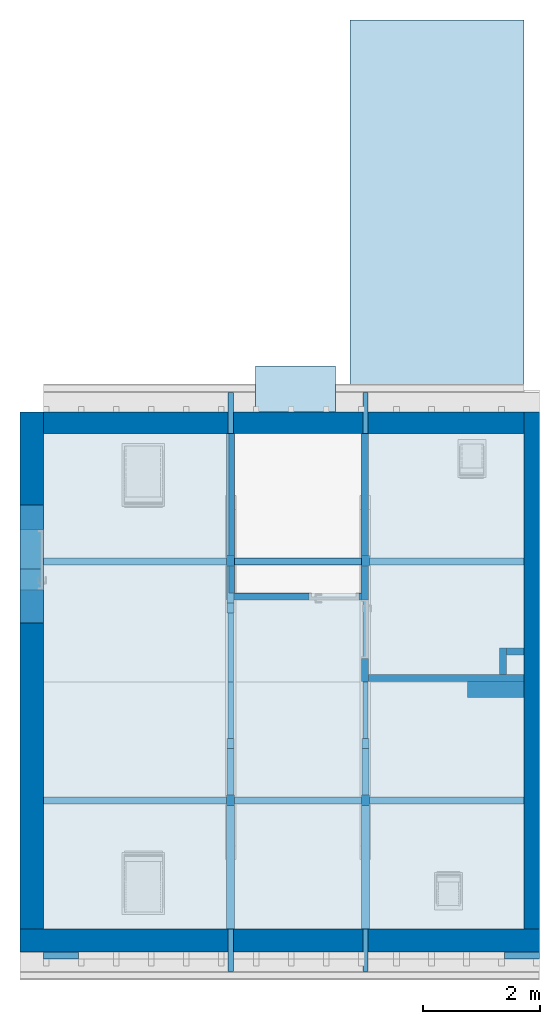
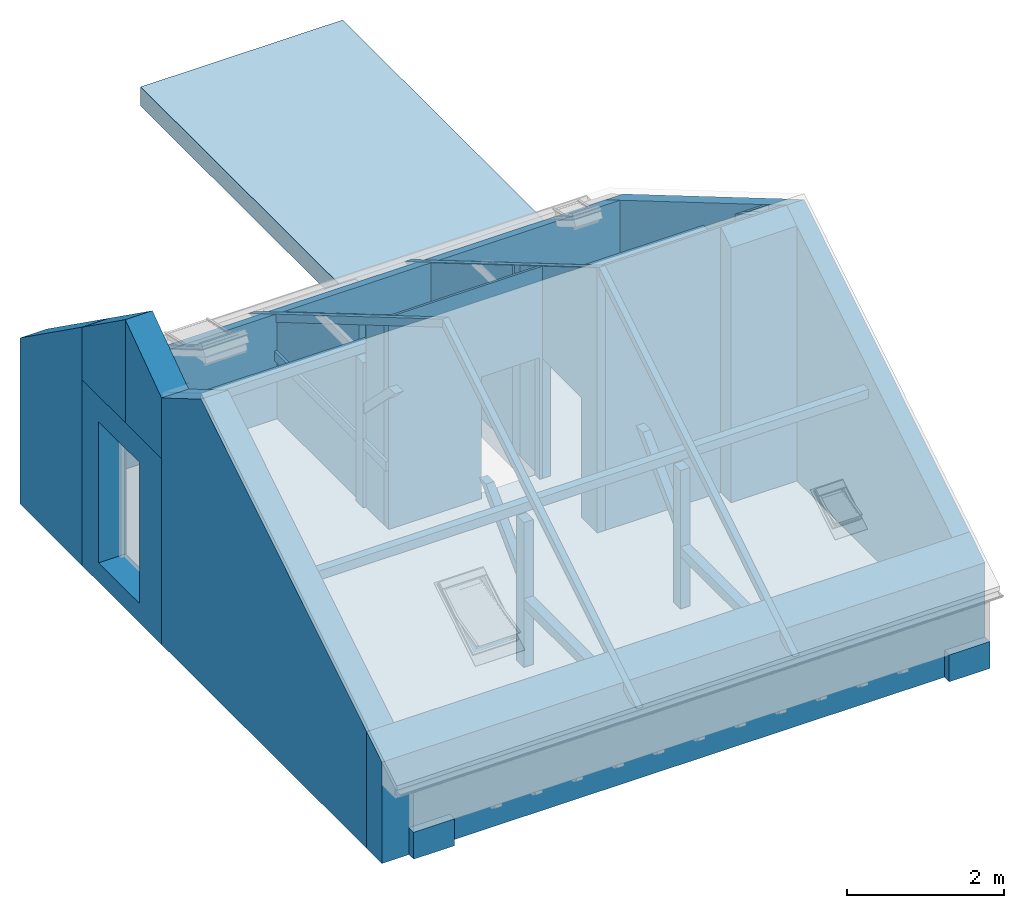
"""IFC4 building model written with IfcOpenShell, lengths in metres."""

from ifc_helpers import new_model, entity, si_unit, converted_unit, derived_unit, frame, frame_2d, origin, origin_with_axes, place, context, subcontext, project, spatial, polyline, rectangle, outline, extrude, clip, halfspace, bounded_halfspace, faceted_brep, material, layer, layer_set, layer_usage, element, save


model = new_model("IFC4")

# Units and contexts
model_context = context("Model", 3, precision=1e-05, world=origin())
body_context = subcontext(model_context, "Body", "Model", "MODEL_VIEW")
ifc_project = project(units=[si_unit("LENGTHUNIT", "METRE"), si_unit("AREAUNIT", "SQUARE_METRE"), si_unit("VOLUMEUNIT", "CUBIC_METRE"), si_unit("MASSUNIT", "GRAM", prefix="KILO"), converted_unit("PLANEANGLEUNIT", "DEGREE", entity("IfcPlaneAngleMeasure", 0.0174532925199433), si_unit("PLANEANGLEUNIT", "RADIAN"), dimensions=[0, 0, 0, 0, 0, 0, 0]), derived_unit("THERMALTRANSMITTANCEUNIT", [(si_unit("POWERUNIT", "WATT"), 1), (si_unit("THERMODYNAMICTEMPERATUREUNIT", "KELVIN"), -1), (si_unit("LENGTHUNIT", "METRE"), -2)]), derived_unit("VOLUMETRICFLOWRATEUNIT", [(si_unit("LENGTHUNIT", "METRE"), 3), (converted_unit("TIMEUNIT", "hour", entity("IfcTimeMeasure", 3600.0), si_unit("TIMEUNIT", "SECOND"), dimensions=[0, 0, 1, 0, 0, 0, 0]), -1), (si_unit("LENGTHUNIT", "METRE"), -1)])], contexts=[model_context])

# Building, storeys
building_placement = place(None, origin())
building = spatial("IfcBuilding", under=ifc_project, at=building_placement, Name="Bestandsgebäude A - Sporthalle / Wohnhaus (TB 100-499)   ANPASSEN !!!", CompositionType="ELEMENT")
storey_1_placement = place(building_placement, frame((0.0, 0.0, 7.71)))
storey_1 = spatial("IfcBuildingStorey", under=building, at=storey_1_placement, Name="Geb. A Dachgeschoss (TB 450-499)", CompositionType="ELEMENT", Elevation=7.71)
storey_2_placement = place(storey_1_placement, frame((0.0, 0.0, 7.71)))
storey_2 = spatial("IfcBuildingStorey", under=storey_1, at=storey_2_placement, Name="Architektur (TB 450-459)", CompositionType="PARTIAL")

# Columns
column_1_placement = place(storey_2_placement, frame((-5.36, 2.50597002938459, -7.81)))
element("IfcColumn", 1, at=column_1_placement, inside=storey_2, PredefinedType="COLUMN", context=body_context, shape_type="SweptSolid", body=[
    extrude(rectangle(XDim=0.14, YDim=0.18, at=frame_2d((0.07, 0.09), x_axis=(1.0, 0.0))), origin_with_axes(), (0.0, 0.0, 1.0), 2.26),
])
column_2_placement = place(storey_2_placement, frame((-3.04999999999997, 2.50597002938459, -7.71)))
element("IfcColumn", 2, at=column_2_placement, inside=storey_2, PredefinedType="COLUMN", context=body_context, shape_type="SweptSolid", body=[
    extrude(rectangle(XDim=0.14, YDim=0.18, at=frame_2d((0.07, 0.09), x_axis=(1.0, 0.0))), origin_with_axes(), (0.0, 0.0, 1.0), 2.16),
])
for number, where in (
    (3, (-5.36, 6.61, -7.81)),
    (4, (-3.04999999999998, 6.60999999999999, -7.81)),
):
    element("IfcColumn", number, at=place(storey_2_placement, frame(where)), inside=storey_2, PredefinedType="COLUMN", context=body_context, shape_type="SweptSolid", body=[
        extrude(rectangle(XDim=0.14, YDim=0.18, at=frame_2d((0.07, 0.09), x_axis=(1.0, 0.0))), origin_with_axes(), (0.0, 0.0, 1.0), 2.26),
    ])

# Beams
beam_1_placement = place(storey_2_placement, frame((-5.35, 2.68626440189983, -6.51970562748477)))
element("IfcBeam", 5, at=beam_1_placement, inside=storey_2, PredefinedType="BEAM", context=body_context, shape_type="Brep", body=[
    faceted_brep([(0.0, 0.0, 0.169705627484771), (0.0, 0.8, 0.969705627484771), (0.12, 0.8, 0.969705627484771), (0.12, 0.0, 0.169705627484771), (0.0, 0.0, 0.0), (0.12, 0.0, 0.0), (0.12, 0.969705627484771, 0.969705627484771), (0.0, 0.969705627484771, 0.969705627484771)], [[[0, 1, 2, 3]], [[4, 5, 6, 7]], [[4, 7, 1, 0]], [[7, 6, 2, 1]], [[6, 5, 3, 2]], [[5, 4, 0, 3]]], orient=[[False], [False], [False], [False], [False], [False]]),
])
beam_2_placement = place(storey_2_placement, frame((-5.35, 5.81, -6.51970562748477)))
element("IfcBeam", 6, at=beam_2_placement, inside=storey_2, PredefinedType="BEAM", context=body_context, shape_type="Brep", body=[
    faceted_brep([(0.12, 0.969705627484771, 0.169705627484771), (0.12, 0.169705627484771, 0.969705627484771), (0.0, 0.169705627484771, 0.969705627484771), (0.0, 0.969705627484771, 0.169705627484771), (0.12, 0.969705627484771, 0.0), (0.0, 0.969705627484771, 0.0), (0.0, 0.0, 0.969705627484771), (0.12, 0.0, 0.969705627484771)], [[[0, 1, 2, 3]], [[4, 5, 6, 7]], [[4, 7, 1, 0]], [[7, 6, 2, 1]], [[6, 5, 3, 2]], [[5, 4, 0, 3]]], orient=[[False], [False], [False], [False], [False], [False]]),
])
beam_3_placement = place(storey_2_placement, frame((-3.03999999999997, 2.68626440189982, -6.51970562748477)))
element("IfcBeam", 7, at=beam_3_placement, inside=storey_2, PredefinedType="BEAM", context=body_context, shape_type="Brep", body=[
    faceted_brep([(0.0, 0.0, 0.169705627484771), (0.0, 0.8, 0.969705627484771), (0.12, 0.8, 0.969705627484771), (0.12, 0.0, 0.169705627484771), (0.0, 0.0, 0.0), (0.12, 0.0, 0.0), (0.12, 0.969705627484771, 0.969705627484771), (0.0, 0.969705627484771, 0.969705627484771)], [[[0, 1, 2, 3]], [[4, 5, 6, 7]], [[4, 7, 1, 0]], [[7, 6, 2, 1]], [[6, 5, 3, 2]], [[5, 4, 0, 3]]], orient=[[False], [False], [False], [False], [False], [False]]),
])
beam_4_placement = place(storey_2_placement, frame((-5.335, 4.62499999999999, -6.59000000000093)))
element("IfcBeam", 8, at=beam_4_placement, inside=storey_2, PredefinedType="BEAM", context=body_context, shape_type="Brep", body=[
    faceted_brep([(0.0, 0.0, 2.92000000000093), (0.09, 0.0, 2.92000000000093), (0.09, 0.0, 2.79238669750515), (0.0, 0.0, 2.79238669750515), (0.0, 4.96500584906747, 0.0), (0.09, 4.96500584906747, 0.0), (0.09, 4.74801927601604, 0.0), (0.0, 4.74801927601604, 0.0)], [[[0, 1, 2, 3]], [[0, 4, 5, 1]], [[1, 5, 6, 2]], [[2, 6, 7, 3]], [[3, 7, 4, 0]], [[4, 7, 6, 5]]], orient=[[False], [False], [False], [False], [False], [False]]),
])
for number, where in (
    (9, (-5.335, -0.340000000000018, -6.74)),
    (10, (-3.02499999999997, -0.340000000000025, -6.74)),
):
    element("IfcBeam", number, at=place(storey_2_placement, frame(where)), inside=storey_2, PredefinedType="BEAM", context=body_context, shape_type="Brep", body=[
        faceted_brep([(0.09, 4.96500000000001, 3.07), (0.0, 4.96500000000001, 3.07), (0.0, 4.96500000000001, 2.94067022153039), (0.09, 4.96500000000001, 2.94067022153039), (0.09, 0.0, 0.0), (0.0, 0.0, 0.0), (0.0, 0.209160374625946, 0.0), (0.09, 0.209160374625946, 0.0)], [[[0, 1, 2, 3]], [[0, 4, 5, 1]], [[1, 5, 6, 2]], [[2, 6, 7, 3]], [[3, 7, 4, 0]], [[4, 7, 6, 5]]], orient=[[False], [False], [False], [False], [False], [False]]),
    ])
beam_5_placement = place(storey_2_placement, frame((-3.02499999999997, 4.62499999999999, -6.59000000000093)))
element("IfcBeam", 11, at=beam_5_placement, inside=storey_2, PredefinedType="BEAM", context=body_context, shape_type="Brep", body=[
    faceted_brep([(0.0, 0.0, 2.92000000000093), (0.09, 0.0, 2.92000000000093), (0.09, 0.0, 2.79238669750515), (0.0, 0.0, 2.79238669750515), (0.0, 4.96500584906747, 0.0), (0.09, 4.96500584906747, 0.0), (0.09, 4.74801927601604, 0.0), (0.0, 4.74801927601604, 0.0)], [[[0, 1, 2, 3]], [[0, 4, 5, 1]], [[1, 5, 6, 2]], [[2, 6, 7, 3]], [[3, 7, 4, 0]], [[4, 7, 6, 5]]], orient=[[False], [False], [False], [False], [False], [False]]),
])
beam_6_placement = place(storey_2_placement, frame((-2.90999999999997, 0.389999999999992, -6.89), z_axis=(0.0, 0.0, 1.0), x_axis=(0.0, 1.0, 0.0)))
element("IfcBeam", 12, at=beam_6_placement, inside=storey_2, PredefinedType="NOTDEFINED", context=body_context, shape_type="SweptSolid", body=[
    extrude(rectangle(XDim=0.14, YDim=0.15, at=frame_2d((0.07, 0.075), x_axis=(1.0, 0.0))), frame((0.0, 0.0, 0.0), z_axis=(1.0, 0.0, 0.0), x_axis=(0.0, 1.0, 0.0)), (0.0, 0.0, 1.0), 2.11597002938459),
])
beam_7_placement = place(storey_2_placement, frame((-0.260000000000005, 2.65, -5.41), z_axis=(0.0, 0.0, 1.0), x_axis=(-1.0, 0.0, 0.0)))
element("IfcBeam", 13, at=beam_7_placement, inside=storey_2, PredefinedType="NOTDEFINED", context=body_context, shape_type="SweptSolid", body=[
    extrude(rectangle(XDim=0.12, YDim=0.14, at=frame_2d((0.06, 0.07), x_axis=(1.0, 0.0))), frame((0.0, 0.0, 0.0), z_axis=(1.0, 0.0, 0.0), x_axis=(0.0, 1.0, 0.0)), (0.0, 0.0, 1.0), 8.23999999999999),
])
beam_8_placement = place(storey_2_placement, frame((-5.22, 0.389999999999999, -6.89), z_axis=(0.0, 0.0, 1.0), x_axis=(0.0, 1.0, 0.0)))
element("IfcBeam", 14, at=beam_8_placement, inside=storey_2, PredefinedType="NOTDEFINED", context=body_context, shape_type="SweptSolid", body=[
    extrude(rectangle(XDim=0.14, YDim=0.15, at=frame_2d((0.07, 0.075), x_axis=(1.0, 0.0))), frame((0.0, 0.0, 0.0), z_axis=(1.0, 0.0, 0.0), x_axis=(0.0, 1.0, 0.0)), (0.0, 0.0, 1.0), 2.11597002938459),
])
beam_9_placement = place(storey_2_placement, frame((-0.260000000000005, 6.75000000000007, -5.41), z_axis=(0.0, 0.0, 1.0), x_axis=(-1.0, -1.37969463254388e-14, 0.0)))
element("IfcBeam", 15, at=beam_9_placement, inside=storey_2, PredefinedType="NOTDEFINED", context=body_context, shape_type="SweptSolid", body=[
    extrude(rectangle(XDim=0.12, YDim=0.14, at=frame_2d((0.06, 0.07), x_axis=(1.0, 0.0))), frame((0.0, 0.0, 0.0), z_axis=(1.0, 0.0, 0.0), x_axis=(0.0, 1.0, 0.0)), (0.0, 0.0, 1.0), 8.23999999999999),
])
beam_10_placement = place(storey_2_placement, frame((-5.22, 6.03, -6.89), z_axis=(0.0, 0.0, 1.0), x_axis=(2.2338466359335e-15, 1.0, 0.0)))
element("IfcBeam", 16, at=beam_10_placement, inside=storey_2, PredefinedType="NOTDEFINED", context=body_context, shape_type="SweptSolid", body=[
    extrude(rectangle(XDim=0.14, YDim=0.15, at=frame_2d((0.07, 0.075), x_axis=(1.0, 0.0))), frame((0.0, 0.0, 0.0), z_axis=(1.0, 0.0, 0.0), x_axis=(0.0, 1.0, 0.0)), (0.0, 0.0, 1.0), 2.85000000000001),
])

# Slabs
slab_1_placement = place(storey_2_placement, frame((-4.86, 9.25, -7.07)))
element("IfcSlab", 17, at=slab_1_placement, inside=storey_2, PredefinedType="FLOOR", context=body_context, shape_type="SweptSolid", body=[
    extrude(rectangle(XDim=0.79, YDim=1.36999999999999, at=frame_2d((0.684999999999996, -0.395), x_axis=(0.0, -1.0))), frame((0.0, 0.79, 0.0), z_axis=(0.0, 0.0, 1.0), x_axis=(1.0, 0.0, 0.0)), (0.0, 0.0, 1.0), 0.1),
])
slab_2_placement = place(storey_2_placement, frame((-8.5, 0.389999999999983, -8.11)))
element("IfcSlab", 18, at=slab_2_placement, inside=storey_2, PredefinedType="FLOOR", context=body_context, shape_type="SweptSolid", body=[
    extrude(outline(polyline([(0.0, 0.0), (8.24, 0.0), (8.23999999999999, 8.49000000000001), (5.45000000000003, 8.49000000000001), (5.45, 5.76000000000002), (3.27999999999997, 5.76000000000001), (3.28000000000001, 8.49000000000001), (0.0, 8.49000000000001), (0.0, 0.0)])), origin_with_axes(), (0.0, 0.0, 1.0), 0.3),
])
slab_3_placement = place(storey_2_placement, frame((-3.24000000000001, 9.24999999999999, -7.96)))
element("IfcSlab", 19, at=slab_3_placement, inside=storey_2, PredefinedType="FLOOR", context=body_context, shape_type="SweptSolid", body=[
    extrude(rectangle(XDim=6.72, YDim=2.98000000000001, at=frame_2d((1.49, -3.36), x_axis=(-2.70682946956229e-16, -1.0))), frame((0.0, 6.72, 0.0), z_axis=(0.0, 0.0, 1.0), x_axis=(1.0, 0.0, 0.0)), (0.0, 0.0, 1.0), 0.300000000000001),
])

# Walls
ifc_material_1 = material(Name="concrete")
ifc_layer_1 = layer(ifc_material_1, 0.39)
ifc_layer_set_1 = layer_set([ifc_layer_1])
ifc_layer_usage_1 = layer_usage(ifc_layer_set_1, "AXIS2", "POSITIVE", 0.0)
wall_1_placement = place(storey_2_placement, frame((-8.9, 0.0, -8.11), z_axis=(0.0, 0.0, 1.0), x_axis=(1.0, -1.22098035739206e-16, 0.0)))
element("IfcWall", 20, at=wall_1_placement, inside=storey_2, material=ifc_layer_usage_1, Name="reinforced - bearing", PredefinedType="USERDEFINED", context=body_context, shape_type="Clipping", body=[
    clip(extrude(rectangle(XDim=8.9, YDim=0.39, at=frame_2d((4.45, 0.195), x_axis=(1.0, 0.0))), origin_with_axes(), (0.0, 0.0, 1.0), 1.82138538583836), halfspace(frame((4.45, 0.195, 1.70080983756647), z_axis=(-8.6458864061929e-17, 0.525917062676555, -0.850535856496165), x_axis=(1.03848757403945e-16, -0.850535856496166, -0.525917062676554)), True)),
])
ifc_material_2 = material(Name="concrete")
ifc_layer_2 = layer(ifc_material_2, 0.26)
ifc_layer_set_2 = layer_set([ifc_layer_2])
ifc_layer_usage_2 = layer_usage(ifc_layer_set_2, "AXIS2", "POSITIVE", 0.0)
wall_2_placement = place(storey_2_placement, frame((0.0, 0.38999999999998, -8.11), z_axis=(0.0, 0.0, 1.0), x_axis=(6.12323399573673e-17, 1.0, 0.0)))
element("IfcWall", 21, at=wall_2_placement, inside=storey_2, material=ifc_layer_usage_2, Name="reinforced - bearing", PredefinedType="USERDEFINED", context=body_context, shape_type="Clipping", body=[
    clip(clip(extrude(rectangle(XDim=8.86000000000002, YDim=0.26, at=frame_2d((4.43000000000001, 0.13), x_axis=(1.0, 0.0))), origin_with_axes(), (0.0, 0.0, 1.0), 4.43998901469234), bounded_halfspace(frame((6.54745961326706, 0.13, 3.0799723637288), z_axis=(-0.506936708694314, -3.10409208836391e-17, -0.861983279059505), x_axis=(-0.861983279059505, 1.07827090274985e-17, 0.506936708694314)), True, origin_with_axes(), polyline([(8.86000000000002, 0.26), (4.2349192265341, 0.26), (4.2349192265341, 0.0), (8.86000000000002, 0.0), (8.86000000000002, 0.26)]))), bounded_halfspace(frame((2.11745961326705, 0.13, 3.13068720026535), z_axis=(0.525917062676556, 3.22031323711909e-17, -0.850535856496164), x_axis=(6.12323399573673e-17, -1.0, 0.0)), True, origin_with_axes(), polyline([(0.0, 0.26), (0.0, 0.0), (4.2349192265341, 0.0), (4.2349192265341, 0.26), (0.0, 0.26)]))),
])

# Wall, opening
ifc_material_3 = material(Name="masonry")
ifc_layer_3 = layer(ifc_material_3, 0.12)
ifc_layer_set_3 = layer_set([ifc_layer_3])
ifc_layer_usage_3 = layer_usage(ifc_layer_set_3, "AXIS2", "POSITIVE", 0.0)
wall_3_placement = place(storey_2_placement, frame((-5.31999999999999, 6.03, -7.81), z_axis=(0.0, 0.0, 1.0), x_axis=(1.0, 1.60263383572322e-15, 0.0)))
wall_3 = element("IfcWall", 22, at=wall_3_placement, inside=storey_2, material=ifc_layer_usage_3, Name="masonry load-bearing", PredefinedType="USERDEFINED", context=body_context, shape_type="Clipping", body=[
    clip(extrude(rectangle(XDim=2.27, YDim=0.12, at=frame_2d((1.135, 0.06), x_axis=(1.0, 0.0))), origin_with_axes(), (0.0, 0.0, 1.0), 3.31365393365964), halfspace(frame((1.135, 0.06, 3.27836763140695), z_axis=(-6.91139697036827e-16, -0.506936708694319, -0.861983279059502), x_axis=(1.0, 0.0, -8.01316917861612e-16)), True)),
])
opening_1_placement = place(wall_3_placement, frame((2.22999999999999, 0.12, 0.0), z_axis=(0.0, -1.0, 0.0), x_axis=(0.0, 0.0, 1.0)))
element("IfcOpeningElement", 23, at=opening_1_placement, cuts=wall_3, Name="Door opening", PredefinedType="OPENING", context=body_context, shape_type="SweptSolid", body=[
    extrude(outline(polyline([(1.9, 0.86), (1.9, 0.0), (0.0, 0.0), (0.0, 0.86), (1.9, 0.86)])), origin_with_axes(), (0.0, 0.0, 1.0), 0.12),
])

# Walls
ifc_material_4 = material(Name="masonry")
ifc_layer_4 = layer(ifc_material_4, 0.12)
ifc_layer_set_4 = layer_set([ifc_layer_4])
ifc_layer_usage_4 = layer_usage(ifc_layer_set_4, "AXIS2", "POSITIVE", 0.0)
wall_4_placement = place(storey_2_placement, frame((-2.92999999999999, 4.63000000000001, -7.81)))
element("IfcWall", 24, at=wall_4_placement, inside=storey_2, material=ifc_layer_usage_4, Name="masonry load-bearing", PredefinedType="USERDEFINED", context=body_context, shape_type="Clipping", body=[
    clip(extrude(rectangle(XDim=2.66999999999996, YDim=0.12, at=frame_2d((1.33499999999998, 0.06), x_axis=(1.0, 0.0))), origin_with_axes(), (0.0, 0.0, 1.0), 4.13700098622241), halfspace(frame((1.33499999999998, 0.06, 4.10171468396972), z_axis=(2.93621432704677e-16, -0.506936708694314, -0.861983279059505), x_axis=(1.0, 0.0, 0.0)), True)),
])
ifc_material_5 = material(Name="masonry")
ifc_layer_5 = layer(ifc_material_5, 0.27)
ifc_layer_set_5 = layer_set([ifc_layer_5])
ifc_layer_usage_5 = layer_usage(ifc_layer_set_5, "AXIS2", "POSITIVE", 0.0)
wall_5_placement = place(storey_2_placement, frame((-0.260000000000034, 4.63000000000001, -7.81), z_axis=(0.0, 0.0, 1.0), x_axis=(-1.0, -3.75049361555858e-15, 0.0)))
element("IfcWall", 25, at=wall_5_placement, inside=storey_2, material=ifc_layer_usage_5, Name="masonry load-bearing", PredefinedType="USERDEFINED", context=body_context, shape_type="Clipping", body=[
    clip(clip(extrude(rectangle(XDim=0.96999999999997, YDim=0.27, at=frame_2d((0.484999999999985, 0.135), x_axis=(1.0, 0.0))), origin_with_axes(), (0.0, 0.0, 1.0), 4.13998901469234), bounded_halfspace(frame((0.484999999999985, 0.00254038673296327, 4.13849500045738), z_axis=(1.75882929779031e-15, 0.506936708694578, -0.861983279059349), x_axis=(3.2328627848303e-15, 0.861983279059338, 0.506936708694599)), True, origin_with_axes(), polyline([(0.96999999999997, 0.0), (0.96999999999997, 0.00508077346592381), (0.0, 0.00508077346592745), (0.0, 0.0), (0.96999999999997, 0.0)]))), bounded_halfspace(frame((0.484999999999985, 0.137540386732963, 4.05808444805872), z_axis=(-2.58386781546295e-15, -0.525917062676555, -0.850535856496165), x_axis=(-2.69953028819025e-16, -0.850535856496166, 0.525917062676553)), True, origin_with_axes(), polyline([(0.0, 0.270000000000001), (0.0, 0.00508077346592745), (0.96999999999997, 0.00508077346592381), (0.969999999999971, 0.270000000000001), (0.0, 0.270000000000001)]))),
])
ifc_material_6 = material(Name="masonry")
ifc_layer_6 = layer(ifc_material_6, 0.12)
ifc_layer_set_6 = layer_set([ifc_layer_6])
ifc_layer_usage_6 = layer_usage(ifc_layer_set_6, "AXIS2", "POSITIVE", 0.0)
wall_6_placement = place(storey_2_placement, frame((-0.680000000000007, 5.21, -7.81), z_axis=(0.0, 0.0, 1.0), x_axis=(0.0, -1.0, 0.0)))
element("IfcWall", 26, at=wall_6_placement, inside=storey_2, material=ifc_layer_usage_6, Name="masonry load-bearing", PredefinedType="USERDEFINED", context=body_context, shape_type="Clipping", body=[
    clip(extrude(rectangle(XDim=0.460000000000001, YDim=0.12, at=frame_2d((0.23, 0.06), x_axis=(1.0, 0.0))), origin_with_axes(), (0.0, 0.0, 1.0), 4.06642838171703), halfspace(frame((0.230000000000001, 0.06, 3.93116422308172), z_axis=(0.50693670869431, -5.68093641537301e-17, -0.861983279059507), x_axis=(0.861983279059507, 0.0, 0.50693670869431)), True)),
])
ifc_material_7 = material(Name="masonry")
ifc_layer_7 = layer(ifc_material_7, 0.12)
ifc_layer_set_7 = layer_set([ifc_layer_7])
ifc_layer_usage_7 = layer_usage(ifc_layer_set_7, "AXIS2", "POSITIVE", 0.0)
wall_7_placement = place(storey_2_placement, frame((-0.260000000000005, 5.21, -7.81), z_axis=(0.0, 0.0, 1.0), x_axis=(-1.0, 0.0, 0.0)))
element("IfcWall", 27, at=wall_7_placement, inside=storey_2, material=ifc_layer_usage_7, Name="masonry load-bearing", PredefinedType="USERDEFINED", context=body_context, shape_type="Clipping", body=[
    clip(extrude(rectangle(XDim=0.300000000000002, YDim=0.12, at=frame_2d((0.150000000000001, 0.06), x_axis=(1.0, 0.0))), origin_with_axes(), (0.0, 0.0, 1.0), 3.86647266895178), halfspace(frame((0.150000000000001, 0.06, 3.83118636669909), z_axis=(0.0, 0.506936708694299, -0.861983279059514), x_axis=(1.0, 0.0, 0.0)), True)),
])
ifc_material_8 = material(Name="concrete")
ifc_layer_8 = layer(ifc_material_8, 0.12)
ifc_layer_set_8 = layer_set([ifc_layer_8])
ifc_layer_usage_8 = layer_usage(ifc_layer_set_8, "AXIS2", "POSITIVE", 0.0)
wall_8_placement = place(storey_2_placement, frame((0.0, 0.0, -8.11), z_axis=(0.0, 0.0, 1.0), x_axis=(-1.0, 0.0, 0.0)))
element("IfcWall", 28, at=wall_8_placement, inside=storey_2, material=ifc_layer_usage_8, Name="reinforced - bearing", PredefinedType="USERDEFINED", context=body_context, shape_type="SweptSolid", body=[
    extrude(rectangle(XDim=0.6, YDim=0.12, at=frame_2d((0.3, 0.06), x_axis=(1.0, 0.0))), origin_with_axes(), (0.0, 0.0, 1.0), 0.419999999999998),
])
ifc_material_9 = material(Name="concrete")
ifc_layer_9 = layer(ifc_material_9, 0.12)
ifc_layer_set_9 = layer_set([ifc_layer_9])
ifc_layer_usage_9 = layer_usage(ifc_layer_set_9, "AXIS2", "POSITIVE", 0.0)
wall_9_placement = place(storey_2_placement, frame((-7.89999999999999, 0.0, -8.11), z_axis=(0.0, 0.0, 1.0), x_axis=(-1.0, 0.0, 0.0)))
element("IfcWall", 29, at=wall_9_placement, inside=storey_2, material=ifc_layer_usage_9, Name="reinforced - bearing", PredefinedType="USERDEFINED", context=body_context, shape_type="SweptSolid", body=[
    extrude(rectangle(XDim=0.599999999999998, YDim=0.12, at=frame_2d((0.299999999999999, 0.06), x_axis=(1.0, 0.0))), origin_with_axes(), (0.0, 0.0, 1.0), 0.419999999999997),
])
ifc_material_10 = material(Name="concrete")
ifc_layer_10 = layer(ifc_material_10, 0.4)
ifc_layer_set_10 = layer_set([ifc_layer_10])
ifc_layer_usage_10 = layer_usage(ifc_layer_set_10, "AXIS2", "POSITIVE", 0.0)
wall_10_placement = place(storey_2_placement, frame((-8.5, 0.389999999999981, -8.11), z_axis=(0.0, 0.0, 1.0), x_axis=(0.0, 1.0, 0.0)))
element("IfcWall", 30, at=wall_10_placement, inside=storey_2, material=ifc_layer_usage_10, Name="reinforced - bearing", PredefinedType="USERDEFINED", context=body_context, shape_type="Clipping", body=[
    clip(clip(extrude(rectangle(XDim=5.24335874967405, YDim=0.4, at=frame_2d((2.62167937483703, 0.2), x_axis=(1.0, 0.0))), origin_with_axes(), (0.0, 0.0, 1.0), 4.43998901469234), bounded_halfspace(frame((4.73913898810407, 0.2, 4.14345483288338), z_axis=(-0.506936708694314, 0.0, -0.861983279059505), x_axis=(0.0, 1.0, 0.0)), True, origin_with_axes(), polyline([(5.24335874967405, 0.0), (5.24335874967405, 0.4), (4.2349192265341, 0.4), (4.2349192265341, 0.0), (5.24335874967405, 0.0)]))), bounded_halfspace(frame((2.11745961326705, 0.2, 3.13068720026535), z_axis=(0.525917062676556, -2.33807069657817e-16, -0.850535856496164), x_axis=(-0.850535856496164, 0.0, -0.525917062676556)), True, origin_with_axes(), polyline([(4.2349192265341, 0.4), (0.0, 0.4), (0.0, 0.0), (4.2349192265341, 0.0), (4.2349192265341, 0.4)]))),
])
ifc_material_11 = material(Name="concrete")
ifc_layer_11 = layer(ifc_material_11, 0.37)
ifc_layer_set_11 = layer_set([ifc_layer_11])
ifc_layer_usage_11 = layer_usage(ifc_layer_set_11, "AXIS2", "POSITIVE", 0.0)
wall_11_placement = place(storey_2_placement, frame((-0.260000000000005, 9.25, -8.11), z_axis=(0.0, 0.0, 1.0), x_axis=(-1.0, 0.0, 0.0)))
element("IfcWall", 31, at=wall_11_placement, inside=storey_2, material=ifc_layer_usage_11, Name="reinforced - bearing", PredefinedType="USERDEFINED", context=body_context, shape_type="Clipping", body=[
    clip(extrude(rectangle(XDim=8.23999999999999, YDim=0.37, at=frame_2d((4.12, 0.185), x_axis=(1.0, 0.0))), origin_with_axes(), (0.0, 0.0, 1.0), 1.93755457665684), halfspace(frame((4.12, 0.185, 1.82875514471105), z_axis=(0.0, 0.506936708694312, -0.861983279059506), x_axis=(1.0, 0.0, 0.0)), True)),
])

# Wall, opening
ifc_material_12 = material(Name="concrete")
ifc_layer_12 = layer(ifc_material_12, 0.4)
ifc_layer_set_12 = layer_set([ifc_layer_12])
ifc_layer_usage_12 = layer_usage(ifc_layer_set_12, "AXIS2", "POSITIVE", 0.0)
wall_12_placement = place(storey_2_placement, frame((-8.5, 5.63335874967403, -8.11), z_axis=(0.0, 0.0, 1.0), x_axis=(0.0, 1.0, 0.0)))
wall_12 = element("IfcWall", 32, at=wall_12_placement, inside=storey_2, material=ifc_layer_usage_12, Name="reinforced - bearing", PredefinedType="USERDEFINED", context=body_context, shape_type="SweptSolid", body=[
    extrude(rectangle(XDim=2.02595714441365, YDim=0.4, at=frame_2d((1.01297857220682, 0.2), x_axis=(1.0, 0.0))), origin_with_axes(), (0.0, 0.0, 1.0), 2.9),
])
opening_2_placement = place(wall_12_placement, frame((1.60664125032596, 0.4, 0.299999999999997), z_axis=(0.0, -1.0, 0.0), x_axis=(0.0, 0.0, 1.0)))
element("IfcOpeningElement", 33, at=opening_2_placement, cuts=wall_12, Name="Door opening", PredefinedType="OPENING", context=body_context, shape_type="SweptSolid", body=[
    extrude(outline(polyline([(2.2, 1.04), (2.2, 0.0), (0.0, 0.0), (0.0, 1.04), (2.2, 1.04)])), origin_with_axes(), (0.0, 0.0, 1.0), 0.4),
])

# Walls
ifc_material_13 = material(Name="concrete")
ifc_layer_13 = layer(ifc_material_13, 0.4)
ifc_layer_set_13 = layer_set([ifc_layer_13])
ifc_layer_usage_13 = layer_usage(ifc_layer_set_13, "AXIS2", "POSITIVE", 0.0)
wall_13_placement = place(storey_2_placement, frame((-8.5, 7.65931589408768, -8.11), z_axis=(0.0, 0.0, 1.0), x_axis=(0.0, 1.0, 0.0)))
element("IfcWall", 34, at=wall_13_placement, inside=storey_2, material=ifc_layer_usage_13, Name="reinforced - bearing", PredefinedType="USERDEFINED", context=body_context, shape_type="Clipping", body=[
    clip(extrude(rectangle(XDim=1.59068410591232, YDim=0.4, at=frame_2d((0.79534205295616, 0.2), x_axis=(1.0, 0.0))), origin_with_axes(), (0.0, 0.0, 1.0), 3.72353544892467), halfspace(frame((0.795342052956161, 0.2, 3.15706081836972), z_axis=(-0.580134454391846, 7.4514081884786e-17, -0.814520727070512), x_axis=(0.814520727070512, 0.0, -0.580134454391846)), True)),
])
ifc_material_14 = material(Name="concrete")
ifc_layer_14 = layer(ifc_material_14, 0.4)
ifc_layer_set_14 = layer_set([ifc_layer_14])
ifc_layer_usage_14 = layer_usage(ifc_layer_set_14, "AXIS2", "POSITIVE", 0.0)
wall_14_placement = place(storey_2_placement, frame((-8.5, 6.55971963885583, -5.21), z_axis=(0.0, 0.0, 1.0), x_axis=(0.0, 1.0, 0.0)))
element("IfcWall", 35, at=wall_14_placement, inside=storey_2, material=ifc_layer_usage_14, Name="reinforced - bearing", PredefinedType="USERDEFINED", context=body_context, shape_type="Clipping", body=[
    clip(extrude(rectangle(XDim=1.09959625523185, YDim=0.4, at=frame_2d((0.549798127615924, 0.2), x_axis=(1.0, 0.0))), origin_with_axes(), (0.0, 0.0, 1.0), 1.6067121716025), halfspace(frame((0.549798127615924, 0.2, 1.21512381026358), z_axis=(-0.580134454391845, 0.0, -0.814520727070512), x_axis=(0.814520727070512, 0.0, -0.580134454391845)), True)),
])
ifc_material_15 = material(Name="concrete")
ifc_layer_15 = layer(ifc_material_15, 0.4)
ifc_layer_set_15 = layer_set([ifc_layer_15])
ifc_layer_usage_15 = layer_usage(ifc_layer_set_15, "AXIS2", "POSITIVE", 0.0)
wall_15_placement = place(storey_2_placement, frame((-8.5, 5.63335874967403, -5.21), z_axis=(0.0, 0.0, 1.0), x_axis=(0.0, 1.0, 0.0)))
element("IfcWall", 36, at=wall_15_placement, inside=storey_2, material=ifc_layer_usage_15, Name="reinforced - bearing", PredefinedType="USERDEFINED", context=body_context, shape_type="Clipping", body=[
    clip(extrude(rectangle(XDim=0.926360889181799, YDim=0.4, at=frame_2d((0.4631804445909, 0.2), x_axis=(1.0, 0.0))), origin_with_axes(), (0.0, 0.0, 1.0), 1.60671217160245), halfspace(frame((0.463180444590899, 0.2, 1.27681641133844), z_axis=(0.580134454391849, 0.0, -0.81452072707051), x_axis=(0.814520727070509, 0.0, 0.580134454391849)), True)),
])
ifc_material_16 = material(Name="masonry")
ifc_layer_16 = layer(ifc_material_16, 0.1)
ifc_layer_set_16 = layer_set([ifc_layer_16])
ifc_layer_usage_16 = layer_usage(ifc_layer_set_16, "AXIS2", "POSITIVE", 0.0)
wall_16_placement = place(storey_2_placement, frame((-5.31999999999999, 6.61, -7.81), z_axis=(0.0, 0.0, 1.0), x_axis=(0.0, -1.0, 0.0)))
element("IfcWall", 37, at=wall_16_placement, inside=storey_2, material=ifc_layer_usage_16, Name="masonry load-bearing", PredefinedType="USERDEFINED", context=body_context, shape_type="Clipping", body=[
    clip(extrude(rectangle(XDim=0.459999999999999, YDim=0.1, at=frame_2d((0.23, 0.05), x_axis=(1.0, 0.0))), origin_with_axes(), (0.0, 0.0, 1.0), 3.24308132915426), halfspace(frame((0.23, 0.05, 3.10781717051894), z_axis=(0.506936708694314, 0.0, -0.861983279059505), x_axis=(0.861983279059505, 0.0, 0.506936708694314)), True)),
])
ifc_material_17 = material(Name="masonry")
ifc_layer_17 = layer(ifc_material_17, 0.1)
ifc_layer_set_17 = layer_set([ifc_layer_17])
ifc_layer_usage_17 = layer_usage(ifc_layer_set_17, "AXIS2", "POSITIVE", 0.0)
wall_17_placement = place(storey_2_placement, frame((-5.31999999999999, 8.88000000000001, -7.81), z_axis=(0.0, 0.0, 1.0), x_axis=(0.0, -1.0, 0.0)))
element("IfcWall", 38, at=wall_17_placement, inside=storey_2, material=ifc_layer_usage_17, Name="masonry load-bearing", PredefinedType="USERDEFINED", context=body_context, shape_type="Clipping", body=[
    clip(extrude(rectangle(XDim=2.09000000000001, YDim=0.1, at=frame_2d((1.045, 0.05), x_axis=(1.0, 0.0))), origin_with_axes(), (0.0, 0.0, 1.0), 2.86669410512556), halfspace(frame((1.045, 0.05, 2.2521243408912), z_axis=(0.506936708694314, 0.0, -0.861983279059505), x_axis=(0.861983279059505, 0.0, 0.506936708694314)), True)),
])

# Wall, opening
ifc_material_18 = material(Name="masonry")
ifc_layer_18 = layer(ifc_material_18, 0.12)
ifc_layer_set_18 = layer_set([ifc_layer_18])
ifc_layer_usage_18 = layer_usage(ifc_layer_set_18, "AXIS2", "POSITIVE", 0.0)
wall_18_placement = place(storey_2_placement, frame((-3.04999999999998, 6.60999999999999, -7.81), z_axis=(0.0, 0.0, 1.0), x_axis=(-3.67472606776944e-15, -1.0, 0.0)))
wall_18 = element("IfcWall", 39, at=wall_18_placement, inside=storey_2, material=ifc_layer_usage_18, Name="masonry load-bearing", PredefinedType="USERDEFINED", context=body_context, shape_type="Clipping", body=[
    clip(extrude(rectangle(XDim=1.97999999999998, YDim=0.12, at=frame_2d((0.98999999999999, 0.06), x_axis=(1.0, 0.0))), origin_with_axes(), (0.0, 0.0, 1.0), 4.13700098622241), halfspace(frame((0.98999999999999, 0.06, 3.55477699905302), z_axis=(0.506936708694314, 1.86285353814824e-15, -0.861983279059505), x_axis=(0.861983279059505, 0.0, 0.506936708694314)), True)),
])
opening_3_placement = place(wall_18_placement, frame((0.579999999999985, 0.0, 0.0), z_axis=(-3.7895612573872e-15, 1.0, 0.0), x_axis=(0.0, 0.0, 1.0)))
element("IfcOpeningElement", 40, at=opening_3_placement, cuts=wall_18, Name="Door opening", PredefinedType="OPENING", context=body_context, shape_type="SweptSolid", body=[
    extrude(outline(polyline([(1.87, 1.0), (1.87, 0.0), (0.0, 0.0), (0.0, 1.0), (1.87, 1.0)])), origin_with_axes(), (0.0, 0.0, 1.0), 0.12),
])

# Wall
ifc_material_19 = material(Name="masonry")
ifc_layer_19 = layer(ifc_material_19, 0.12)
ifc_layer_set_19 = layer_set([ifc_layer_19])
ifc_layer_usage_19 = layer_usage(ifc_layer_set_19, "AXIS2", "POSITIVE", 0.0)
wall_19_placement = place(storey_2_placement, frame((-3.04999999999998, 8.88, -7.81), z_axis=(0.0, 0.0, 1.0), x_axis=(-3.69890189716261e-15, -1.0, 0.0)))
element("IfcWall", 41, at=wall_19_placement, inside=storey_2, material=ifc_layer_usage_19, Name="masonry load-bearing", PredefinedType="USERDEFINED", context=body_context, shape_type="Clipping", body=[
    clip(extrude(rectangle(XDim=2.09000000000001, YDim=0.12, at=frame_2d((1.045, 0.06), x_axis=(1.0, 0.0))), origin_with_axes(), (0.0, 0.0, 1.0), 2.86669410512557), halfspace(frame((1.045, 0.0599999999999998, 2.25212434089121), z_axis=(0.506936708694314, 1.87510915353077e-15, -0.861983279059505), x_axis=(0.861983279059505, 0.0, 0.506936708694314)), True)),
])

save(model, "model.ifc")
